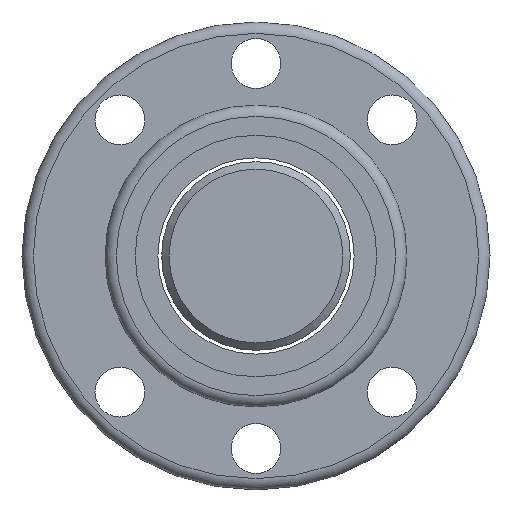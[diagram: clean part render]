
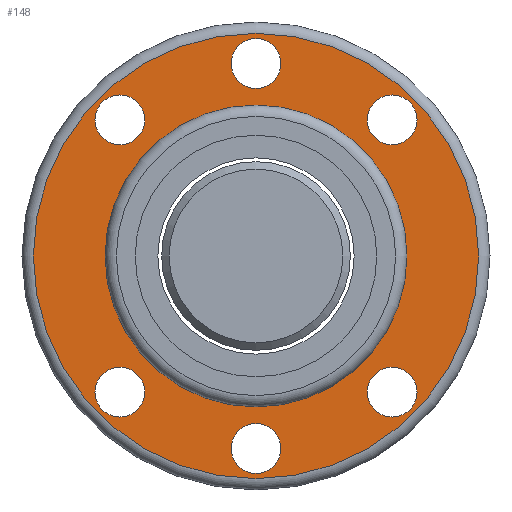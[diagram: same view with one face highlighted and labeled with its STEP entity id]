
A CAD part, left-side view. The second image highlights one B-rep face of the part: STEP entity #148.
In plain terms, the highlighted planar face has unit normal (-1, 0, 0).
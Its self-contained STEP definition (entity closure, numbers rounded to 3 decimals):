
#114=PLANE('',#546);
#127=FACE_OUTER_BOUND('',#284,.T.);
#148=ADVANCED_FACE('',(#208,#209,#210,#211,#212,#213,#214,#127),#114,.T.);
#208=FACE_BOUND('',#277,.T.);
#209=FACE_BOUND('',#278,.T.);
#210=FACE_BOUND('',#279,.T.);
#211=FACE_BOUND('',#280,.T.);
#212=FACE_BOUND('',#281,.T.);
#213=FACE_BOUND('',#282,.T.);
#214=FACE_BOUND('',#283,.T.);
#277=EDGE_LOOP('',(#351));
#278=EDGE_LOOP('',(#352));
#279=EDGE_LOOP('',(#353));
#280=EDGE_LOOP('',(#354));
#281=EDGE_LOOP('',(#355));
#282=EDGE_LOOP('',(#356));
#283=EDGE_LOOP('',(#357));
#284=EDGE_LOOP('',(#358));
#351=ORIENTED_EDGE('',*,*,#448,.F.);
#352=ORIENTED_EDGE('',*,*,#449,.F.);
#353=ORIENTED_EDGE('',*,*,#450,.F.);
#354=ORIENTED_EDGE('',*,*,#451,.F.);
#355=ORIENTED_EDGE('',*,*,#452,.F.);
#356=ORIENTED_EDGE('',*,*,#453,.F.);
#357=ORIENTED_EDGE('',*,*,#454,.T.);
#358=ORIENTED_EDGE('',*,*,#447,.F.);
#410=VERTEX_POINT('',#769);
#411=VERTEX_POINT('',#772);
#412=VERTEX_POINT('',#774);
#413=VERTEX_POINT('',#776);
#414=VERTEX_POINT('',#778);
#415=VERTEX_POINT('',#780);
#416=VERTEX_POINT('',#782);
#417=VERTEX_POINT('',#784);
#447=EDGE_CURVE('',#410,#410,#484,.T.);
#448=EDGE_CURVE('',#411,#411,#485,.T.);
#449=EDGE_CURVE('',#412,#412,#486,.T.);
#450=EDGE_CURVE('',#413,#413,#487,.T.);
#451=EDGE_CURVE('',#414,#414,#488,.T.);
#452=EDGE_CURVE('',#415,#415,#489,.T.);
#453=EDGE_CURVE('',#416,#416,#490,.T.);
#454=EDGE_CURVE('',#417,#417,#491,.T.);
#484=CIRCLE('',#537,29.5);
#485=CIRCLE('',#539,3.3);
#486=CIRCLE('',#540,3.3);
#487=CIRCLE('',#541,3.3);
#488=CIRCLE('',#542,3.3);
#489=CIRCLE('',#543,3.3);
#490=CIRCLE('',#544,3.3);
#491=CIRCLE('',#545,20.);
#537=AXIS2_PLACEMENT_3D('',#768,#644,#645);
#539=AXIS2_PLACEMENT_3D('',#771,#648,#649);
#540=AXIS2_PLACEMENT_3D('',#773,#650,#651);
#541=AXIS2_PLACEMENT_3D('',#775,#652,#653);
#542=AXIS2_PLACEMENT_3D('',#777,#654,#655);
#543=AXIS2_PLACEMENT_3D('',#779,#656,#657);
#544=AXIS2_PLACEMENT_3D('',#781,#658,#659);
#545=AXIS2_PLACEMENT_3D('',#783,#660,#661);
#546=AXIS2_PLACEMENT_3D('',#785,#662,#663);
#644=DIRECTION('',(1.,0.,0.));
#645=DIRECTION('',(0.,1.,0.));
#648=DIRECTION('',(-1.,0.,0.));
#649=DIRECTION('',(0.,-1.,0.));
#650=DIRECTION('',(-1.,0.,0.));
#651=DIRECTION('',(0.,-1.,0.));
#652=DIRECTION('',(-1.,0.,0.));
#653=DIRECTION('',(0.,-1.,0.));
#654=DIRECTION('',(-1.,0.,0.));
#655=DIRECTION('',(0.,-1.,0.));
#656=DIRECTION('',(-1.,0.,0.));
#657=DIRECTION('',(0.,-1.,0.));
#658=DIRECTION('',(-1.,0.,0.));
#659=DIRECTION('',(0.,-1.,0.));
#660=DIRECTION('',(1.,0.,0.));
#661=DIRECTION('',(0.,1.,0.));
#662=DIRECTION('',(-1.,0.,0.));
#663=DIRECTION('',(0.,-1.,0.));
#768=CARTESIAN_POINT('',(-25.,0.,0.));
#769=CARTESIAN_POINT('',(-25.,29.5,0.));
#771=CARTESIAN_POINT('',(-25.,0.,-25.5));
#772=CARTESIAN_POINT('',(-25.,-3.3,-25.5));
#773=CARTESIAN_POINT('',(-25.,0.,25.5));
#774=CARTESIAN_POINT('',(-25.,-3.3,25.5));
#775=CARTESIAN_POINT('',(-25.,18.031,-18.031));
#776=CARTESIAN_POINT('',(-25.,14.731,-18.031));
#777=CARTESIAN_POINT('',(-25.,-18.031,-18.031));
#778=CARTESIAN_POINT('',(-25.,-21.331,-18.031));
#779=CARTESIAN_POINT('',(-25.,-18.031,18.031));
#780=CARTESIAN_POINT('',(-25.,-21.331,18.031));
#781=CARTESIAN_POINT('',(-25.,18.031,18.031));
#782=CARTESIAN_POINT('',(-25.,14.731,18.031));
#783=CARTESIAN_POINT('',(-25.,0.,0.));
#784=CARTESIAN_POINT('',(-25.,20.,0.));
#785=CARTESIAN_POINT('',(-25.,24.75,0.));
